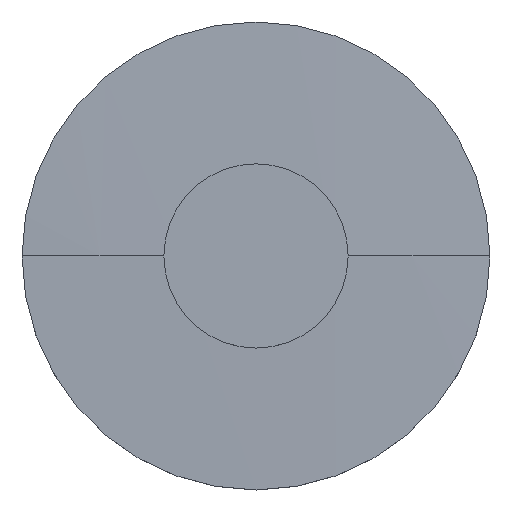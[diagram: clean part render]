
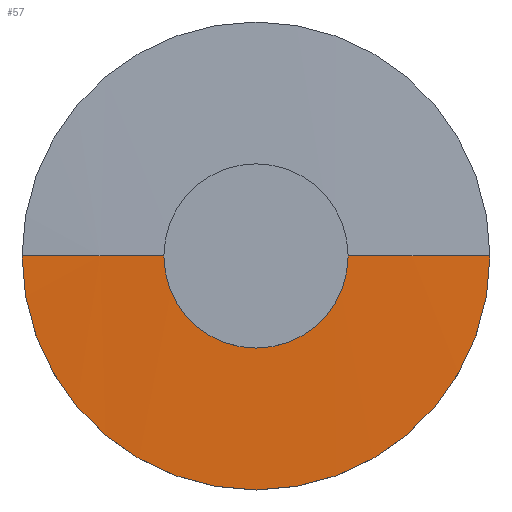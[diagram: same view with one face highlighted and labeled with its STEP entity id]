
A CAD part, top view. The second image highlights one B-rep face of the part: STEP entity #57.
In plain terms, the highlighted spherical face has radius 759.878 mm.
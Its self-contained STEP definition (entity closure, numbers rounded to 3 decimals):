
#57=ADVANCED_FACE('',(#71),#72,.T.);
#71=FACE_OUTER_BOUND('',#91,.T.);
#72=SPHERICAL_SURFACE('',#92,759.878);
#91=EDGE_LOOP('',(#124,#125,#126));
#92=AXIS2_PLACEMENT_3D('',#127,#128,#129);
#124=ORIENTED_EDGE('',*,*,#173,.T.);
#125=ORIENTED_EDGE('',*,*,#174,.T.);
#126=ORIENTED_EDGE('',*,*,#175,.T.);
#127=CARTESIAN_POINT('',(0.0,0.0,-753.878));
#128=DIRECTION('',(0.0,0.0,1.0));
#129=DIRECTION('',(1.0,0.0,0.0));
#173=EDGE_CURVE('',#189,#194,#195,.T.);
#174=EDGE_CURVE('',#194,#191,#196,.T.);
#175=EDGE_CURVE('',#191,#189,#197,.T.);
#189=VERTEX_POINT('',#215);
#191=VERTEX_POINT('',#218);
#194=VERTEX_POINT('',#222);
#195=CIRCLE('',#223,759.878);
#196=CIRCLE('',#224,759.878);
#197=CIRCLE('',#225,25.4);
#215=CARTESIAN_POINT('',(25.4,0.,5.575));
#218=CARTESIAN_POINT('',(-25.4,0.,5.575));
#222=CARTESIAN_POINT('',(0.0,0.0,6.0));
#223=AXIS2_PLACEMENT_3D('',#253,#254,#255);
#224=AXIS2_PLACEMENT_3D('',#256,#257,#258);
#225=AXIS2_PLACEMENT_3D('',#259,#260,#261);
#253=CARTESIAN_POINT('',(0.0,0.0,-753.878));
#254=DIRECTION('',(0.,-1.0,0.0));
#255=DIRECTION('',(0.0,0.0,1.0));
#256=CARTESIAN_POINT('',(0.0,0.0,-753.878));
#257=DIRECTION('',(0.,-1.0,0.0));
#258=DIRECTION('',(0.0,0.0,1.0));
#259=CARTESIAN_POINT('',(0.0,0.0,5.575));
#260=DIRECTION('',(0.0,0.0,1.0));
#261=DIRECTION('',(1.0,0.0,0.0));
